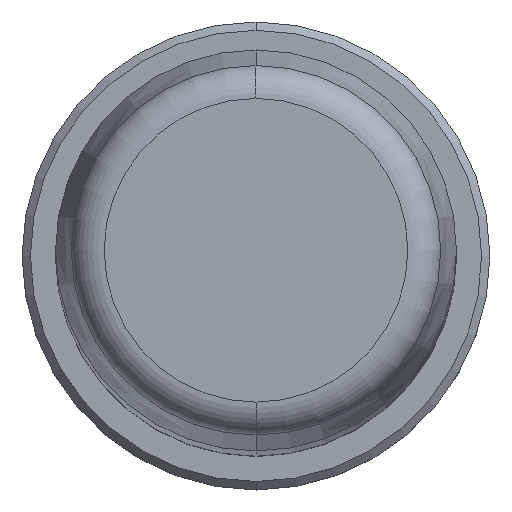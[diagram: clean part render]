
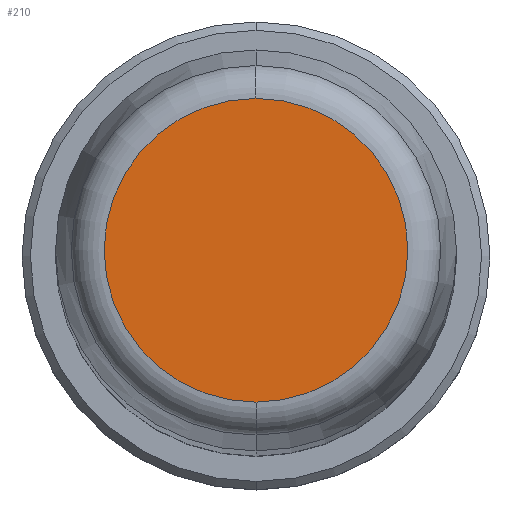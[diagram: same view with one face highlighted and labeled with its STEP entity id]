
A CAD part, top view. The second image highlights one B-rep face of the part: STEP entity #210.
In plain terms, the highlighted planar face has unit normal (0, 0, 1).
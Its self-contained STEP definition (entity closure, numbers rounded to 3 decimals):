
#1=CARTESIAN_POINT('',(0.,0.,200.));
#2=DIRECTION('',(0.,0.,-1.));
#3=DIRECTION('',(0.,-1.,0.));
#4=AXIS2_PLACEMENT_3D('',#1,#2,#3);
#6=CARTESIAN_POINT('',(0.,0.,200.));
#7=DIRECTION('',(0.,0.,-1.));
#8=DIRECTION('',(0.,1.,0.));
#9=AXIS2_PLACEMENT_3D('',#6,#7,#8);
#183=CARTESIAN_POINT('',(0.,-9.088,200.));
#184=CARTESIAN_POINT('',(0.,9.088,200.));
#185=VERTEX_POINT('',#183);
#186=VERTEX_POINT('',#184);
#199=CARTESIAN_POINT('',(0.,0.,200.));
#200=DIRECTION('',(0.,0.,1.));
#201=DIRECTION('',(0.,-1.,0.));
#202=AXIS2_PLACEMENT_3D('',#199,#200,#201);
#203=PLANE('',#202);
#205=ORIENTED_EDGE('',*,*,#204,.T.);
#207=ORIENTED_EDGE('',*,*,#206,.T.);
#208=EDGE_LOOP('',(#205,#207));
#209=FACE_OUTER_BOUND('',#208,.F.);
#210=ADVANCED_FACE('',(#209),#203,.T.);
#5=CIRCLE('',#4,9.088);
#10=CIRCLE('',#9,9.088);
#204=EDGE_CURVE('',#185,#186,#5,.T.);
#206=EDGE_CURVE('',#186,#185,#10,.T.);
